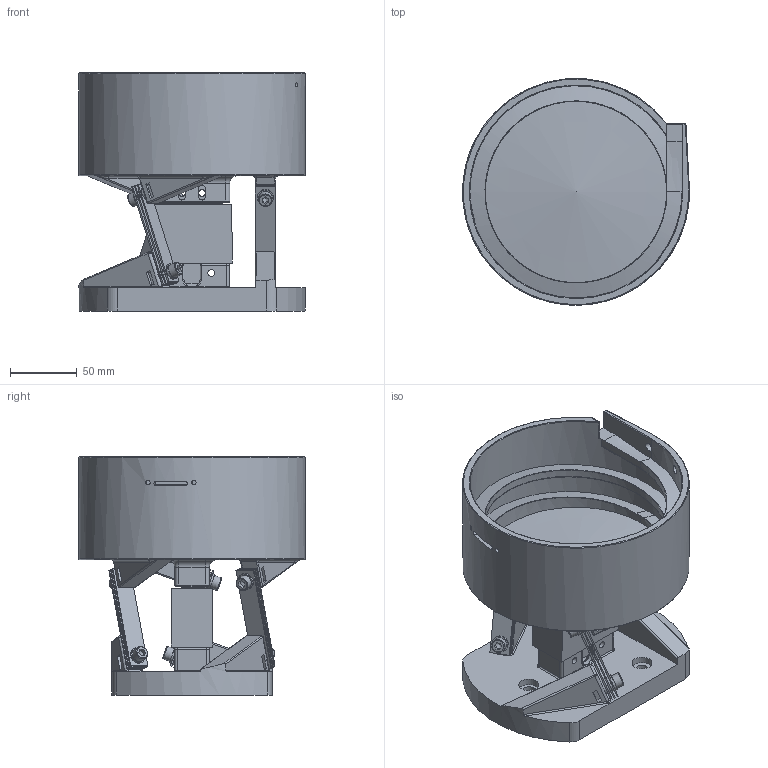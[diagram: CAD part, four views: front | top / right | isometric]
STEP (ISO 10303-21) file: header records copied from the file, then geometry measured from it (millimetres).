
FILE_DESCRIPTION(/* description */ ('E6.40 Vibrationswendeltopf'),/* implementation_level */ '2;1');
FILE_NAME(/* name */ 'Z:\Gleitlager\Konstruktion\robolink\Martin\23-01 Wendeltopf\LCA_E1_Vibrationswendeltopf.stp',/* time_stamp */ '2023-03-09T10:55:15+01:00',/* author */ ('mraak'),/* organization */ ('igus GmbH'),/* preprocessor_version */ 'ST-DEVELOPER v18.1',/* originating_system */ 'Autodesk Inventor 2022',/* authorisation */ '');
FILE_SCHEMA (('AUTOMOTIVE_DESIGN { 1 0 10303 214 3 1 1 }'));
Length unit declared in the file: millimetre
Products named in the file (8): LCA_E1_Vibrationswendeltopf; UNI-Fördertopf-V0; 915.158; OAC005002; 914.739; DIN 562 - M6; DIN 912 - M6x16; DIN 125 - A 6,4
Assembly tree (48 placements, depth 2):
  LCA_E1_Vibrationswendeltopf
    UNI-Fördertopf-V0
    915.158
    OAC005002
    914.739  x9
    DIN 562 - M6  x6
    DIN 125 - A 6,4  x24
    DIN 912 - M6x16  x6
Bounding box: 170 x 170 x 178.5 mm (x, y, z)
Volume: 970670.7 mm3; surface area: 268549.7 mm2
Topology: 49 solids, 51 shells, 765 faces, 1727 edges, 1075 vertices
Faces by surface type: plane 340, cylinder 270, bspline 65, torus 49, cone 27, sphere 14
Full cylindrical faces by diameter (mm): 3.4 x4, 4.917 x6, 5.1 x9, 6 x6, 6.4 x42, 6.5 x4, 7 x12, 9 x3, 10 x6, 12 x24, 15 x3, 136 x1, 159.182 x2, 170 x1
Entity records: 17844 total; most frequent: CARTESIAN_POINT 6012, DIRECTION 2443, ORIENTED_EDGE 2292, EDGE_CURVE 1146, AXIS2_PLACEMENT_3D 944, VERTEX_POINT 702, EDGE_LOOP 576, LINE 555
